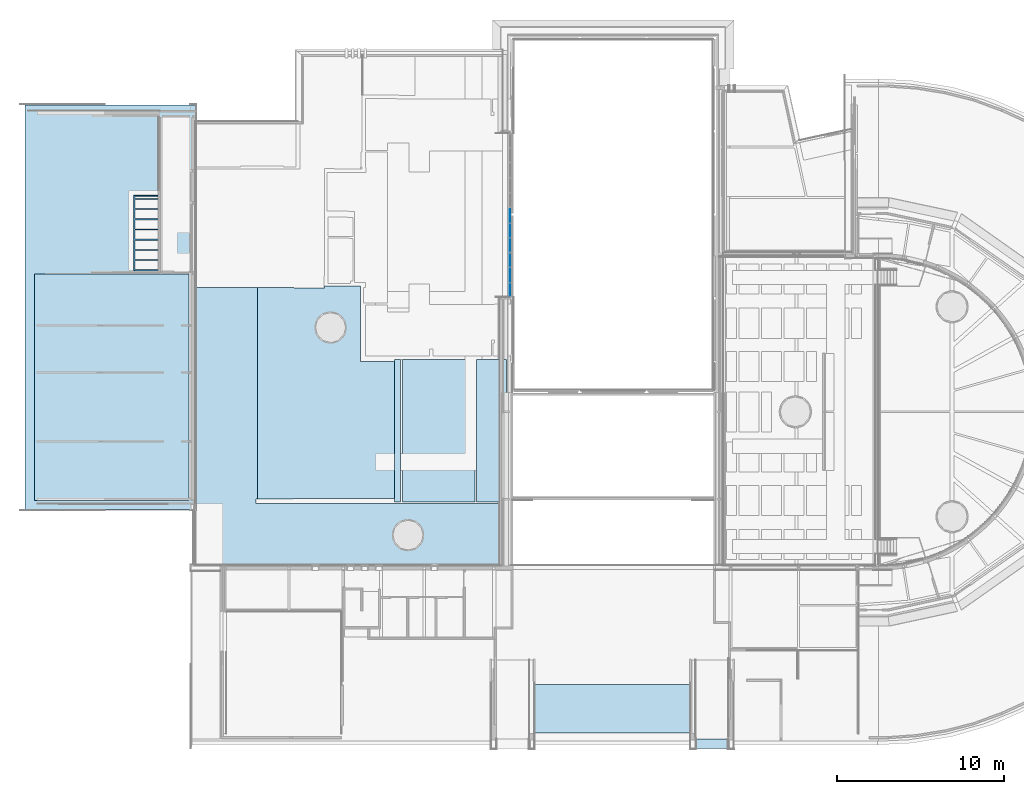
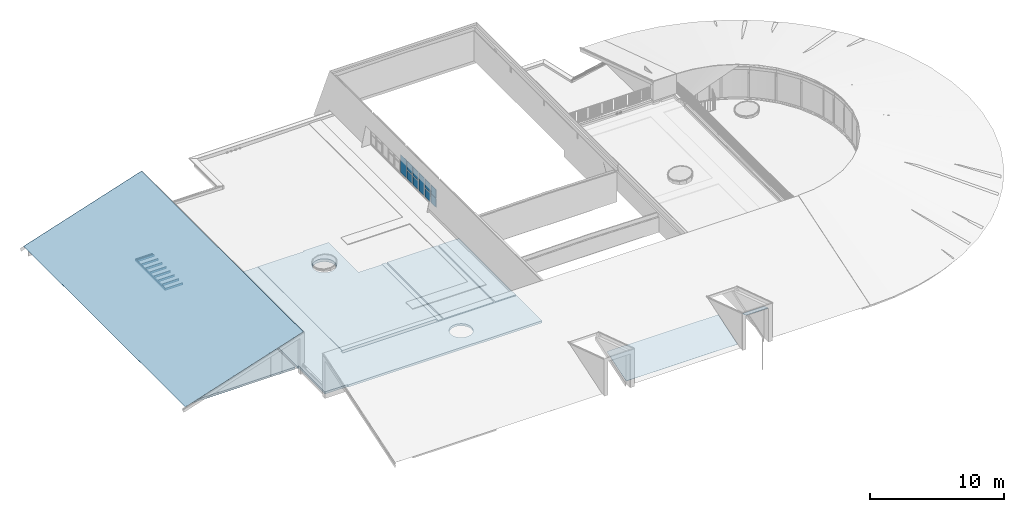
# One storey, part 12 of 66: 10 plates, 10 slabs, 2 openings, 4 elements without a shape of their own.
"""IFC2X3 building model written with IfcOpenShell, lengths in millimetres."""

from ifc_helpers import new_model, entity, si_unit, converted_unit, derived_unit, direction, frame, frame_2d, origin, origin_2d_with_axis, place, context, subcontext, project, spatial, polyline, rectangle, circle, outline, extrude, clip, halfspace, source, transform, mapped, material, layer, layer_set, layer_usage, type_object, type_shapes, element, aggregate, save


model = new_model("IFC2X3")

# Units and contexts
model_context = context("Model", 3, precision=0.01, world=origin(), true_north=direction((6.12303176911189e-17, 1.0)))
body_context = subcontext(model_context, "Body", "Model", "MODEL_VIEW")
ifc_project = project(units=[si_unit("LENGTHUNIT", "METRE", prefix="MILLI"), si_unit("AREAUNIT", "SQUARE_METRE"), si_unit("VOLUMEUNIT", "CUBIC_METRE"), converted_unit("PLANEANGLEUNIT", "DEGREE", entity("IfcRatioMeasure", 0.0174532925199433), si_unit("PLANEANGLEUNIT", "RADIAN"), dimensions=[0, 0, 0, 0, 0, 0, 0]), si_unit("MASSUNIT", "GRAM", prefix="KILO"), derived_unit("MASSDENSITYUNIT", [(si_unit("MASSUNIT", "GRAM", prefix="KILO"), 1), (si_unit("LENGTHUNIT", "METRE"), -3)]), derived_unit("MOMENTOFINERTIAUNIT", [(si_unit("LENGTHUNIT", "METRE"), 4)]), si_unit("TIMEUNIT", "SECOND"), si_unit("FREQUENCYUNIT", "HERTZ"), si_unit("THERMODYNAMICTEMPERATUREUNIT", "DEGREE_CELSIUS"), derived_unit("THERMALTRANSMITTANCEUNIT", [(si_unit("MASSUNIT", "GRAM", prefix="KILO"), 1), (si_unit("THERMODYNAMICTEMPERATUREUNIT", "KELVIN"), -1), (si_unit("TIMEUNIT", "SECOND"), -3)]), derived_unit("VOLUMETRICFLOWRATEUNIT", [(si_unit("LENGTHUNIT", "METRE"), 3), (si_unit("TIMEUNIT", "SECOND"), -1)]), si_unit("ELECTRICCURRENTUNIT", "AMPERE"), si_unit("ELECTRICVOLTAGEUNIT", "VOLT"), si_unit("POWERUNIT", "WATT"), si_unit("FORCEUNIT", "NEWTON", prefix="KILO"), si_unit("ILLUMINANCEUNIT", "LUX"), si_unit("LUMINOUSFLUXUNIT", "LUMEN"), si_unit("LUMINOUSINTENSITYUNIT", "CANDELA"), derived_unit("USERDEFINED", [(si_unit("MASSUNIT", "GRAM", prefix="KILO"), -1), (si_unit("LENGTHUNIT", "METRE"), -2), (si_unit("TIMEUNIT", "SECOND"), 3), (si_unit("LUMINOUSFLUXUNIT", "LUMEN"), 1)]), derived_unit("LINEARVELOCITYUNIT", [(si_unit("LENGTHUNIT", "METRE"), 1), (si_unit("TIMEUNIT", "SECOND"), -1)]), si_unit("PRESSUREUNIT", "PASCAL"), derived_unit("USERDEFINED", [(si_unit("LENGTHUNIT", "METRE"), -2), (si_unit("MASSUNIT", "GRAM", prefix="KILO"), 1), (si_unit("TIMEUNIT", "SECOND"), -2)]), derived_unit("LINEARFORCEUNIT", [(si_unit("MASSUNIT", "GRAM", prefix="KILO"), 1), (si_unit("LENGTHUNIT", "METRE"), 1), (si_unit("TIMEUNIT", "SECOND"), -2), (si_unit("LENGTHUNIT", "METRE"), -1)]), derived_unit("PLANARFORCEUNIT", [(si_unit("MASSUNIT", "GRAM", prefix="KILO"), 1), (si_unit("LENGTHUNIT", "METRE"), 1), (si_unit("TIMEUNIT", "SECOND"), -2), (si_unit("LENGTHUNIT", "METRE"), -2)])], contexts=[model_context])

# Site, building, storey
site_placement = place(None, origin())
site = spatial("IfcSite", under=ifc_project, at=site_placement, Name="Default", CompositionType="ELEMENT")
building_placement = place(site_placement, origin())
building = spatial("IfcBuilding", under=site, at=building_placement, Name="-", CompositionType="ELEMENT")
storey_placement = place(building_placement, frame((0.0, 0.0, 3070.0)))
storey = spatial("IfcBuildingStorey", under=building, at=storey_placement, Name="01 eerste verdieping", CompositionType="ELEMENT", Elevation=3070.00000000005)

# Curtain wall, plates
curtain_wall_type = type_object("IfcCurtainWallType", Name="Curtain Wall:NLRS_31_WIN_UN_houten kozijn vrij indeelbaar_gen_aly", PredefinedType="NOTDEFINED")
curtain_wall_placement = place(storey_placement, frame((0.0, 0.0, -3070.0)))
curtain_wall = element("IfcCurtainWall", 1, at=curtain_wall_placement, inside=storey, type_object=curtain_wall_type, Name="Curtain Wall:NLRS_31_WIN_UN_houten kozijn vrij indeelbaar_gen_aly", ObjectType="Curtain Wall:NLRS_31_WIN_UN_houten kozijn vrij indeelbaar_gen_aly")
ifc_material_1 = material(Name="NLRS_o5_glas")
plate_type_1 = type_object("IfcPlateType", Name="System Panel:31_Geïsoleerd glas 25mm", PredefinedType="CURTAIN_PANEL", material=ifc_material_1)
shared_shape_1 = source(origin(), body_context, "Body", "SweptSolid", [
    extrude(rectangle(XDim=25.0, YDim=768.192821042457, at=origin_2d_with_axis()), frame((0.0, 0.0, 0.0), z_axis=(0.0, 0.0, 1.0), x_axis=(0.0, 1.0, 0.0)), (0.0, 0.0, 1.0), 789.472353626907),
])
type_shapes(plate_type_1, [shared_shape_1])
plate_1_placement = place(curtain_wall_placement, frame((28618.0, 26925.0732932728, 3482.35900394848), z_axis=(0.0, 0.0, 1.0), x_axis=(0.0, 1.0, 0.0)))
plate_1 = element("IfcPlate", 2, at=plate_1_placement, type_object=plate_type_1, material=ifc_material_1, Name="System Panel:31_Geïsoleerd glas 25mm", ObjectType="System Panel:31_Geïsoleerd glas 25mm", context=body_context, shape_type="MappedRepresentation", body=[
    mapped(shared_shape_1, transform((0.0, 0.0, 0.0), scale=1.0)),
])
plate_type_2 = type_object("IfcPlateType", Name="System Panel:31_Geïsoleerd glas 25mm", PredefinedType="CURTAIN_PANEL", material=ifc_material_1)
shared_shape_2 = source(origin(), body_context, "Body", "SweptSolid", [
    extrude(rectangle(XDim=25.0, YDim=847.692821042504, at=origin_2d_with_axis()), frame((0.0, 0.0, 0.0), z_axis=(0.0, 0.0, 1.0), x_axis=(0.0, 1.0, 0.0)), (0.0, 0.0, 1.0), 789.472353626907),
])
type_shapes(plate_type_2, [shared_shape_2])
plate_2_placement = place(curtain_wall_placement, frame((28618.0, 27800.0161143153, 3482.35900394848), z_axis=(0.0, 0.0, 1.0), x_axis=(0.0, 1.0, 0.0)))
plate_2 = element("IfcPlate", 3, at=plate_2_placement, type_object=plate_type_2, material=ifc_material_1, Name="System Panel:31_Geïsoleerd glas 25mm", ObjectType="System Panel:31_Geïsoleerd glas 25mm", context=body_context, shape_type="MappedRepresentation", body=[
    mapped(shared_shape_2, transform((0.0, 0.0, 0.0), scale=1.0)),
])
plate_type_3 = type_object("IfcPlateType", Name="System Panel:31_Geïsoleerd glas 25mm", PredefinedType="CURTAIN_PANEL", material=ifc_material_1)
shared_shape_3 = source(origin(), body_context, "Body", "SweptSolid", [
    extrude(rectangle(XDim=1625.94470725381, YDim=824.692821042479, at=frame_2d((-3.33333333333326, 0.0), x_axis=(1.0, 0.0))), frame((0.0, -12.5000000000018, 816.305686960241), z_axis=(0.0, 1.0, 0.0), x_axis=(0.0, 0.0, 1.0)), (0.0, 0.0, 1.0), 25.0),
])
type_shapes(plate_type_3, [shared_shape_3])
plate_3_placement = place(curtain_wall_placement, frame((28618.0, 28703.2089353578, 3482.35900394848), z_axis=(0.0, 0.0, 1.0), x_axis=(0.0, 1.0, 0.0)))
plate_3 = element("IfcPlate", 4, at=plate_3_placement, type_object=plate_type_3, material=ifc_material_1, Name="System Panel:31_Geïsoleerd glas 25mm", ObjectType="System Panel:31_Geïsoleerd glas 25mm", context=body_context, shape_type="MappedRepresentation", body=[
    mapped(shared_shape_3, transform((0.0, 0.0, 0.0), scale=1.0)),
])
plate_type_4 = type_object("IfcPlateType", Name="System Panel:31_Geïsoleerd glas 25mm", PredefinedType="CURTAIN_PANEL", material=ifc_material_1)
shared_shape_4 = source(origin(), body_context, "Body", "SweptSolid", [
    extrude(rectangle(XDim=25.0, YDim=812.999999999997, at=origin_2d_with_axis()), frame((0.0, 0.0, 0.0), z_axis=(0.0, 0.0, 1.0), x_axis=(0.0, 1.0, 0.0)), (0.0, 0.0, 1.0), 789.472353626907),
])
type_shapes(plate_type_4, [shared_shape_4])
plate_4_placement = place(curtain_wall_placement, frame((28618.0, 29589.055345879, 3482.35900394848), z_axis=(0.0, 0.0, 1.0), x_axis=(0.0, 1.0, 0.0)))
plate_4 = element("IfcPlate", 5, at=plate_4_placement, type_object=plate_type_4, material=ifc_material_1, Name="System Panel:31_Geïsoleerd glas 25mm", ObjectType="System Panel:31_Geïsoleerd glas 25mm", context=body_context, shape_type="MappedRepresentation", body=[
    mapped(shared_shape_4, transform((0.0, 0.0, 0.0), scale=1.0)),
])
plate_5_placement = place(curtain_wall_placement, frame((28618.0, 30469.055345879, 3482.35900394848), z_axis=(0.0, 0.0, 1.0), x_axis=(0.0, 1.0, 0.0)))
plate_5 = element("IfcPlate", 6, at=plate_5_placement, type_object=plate_type_4, material=ifc_material_1, Name="System Panel:31_Geïsoleerd glas 25mm", ObjectType="System Panel:31_Geïsoleerd glas 25mm", context=body_context, shape_type="MappedRepresentation", body=[
    mapped(shared_shape_4, transform((0.0, 0.0, 0.0), scale=1.0)),
])
plate_type_5 = type_object("IfcPlateType", Name="System Panel:31_Geïsoleerd glas 25mm", PredefinedType="CURTAIN_PANEL", material=ifc_material_1)
shared_shape_5 = source(origin(), body_context, "Body", "SweptSolid", [
    extrude(rectangle(XDim=1625.94470725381, YDim=872.999999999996, at=frame_2d((-3.33333333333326, 0.0), x_axis=(1.0, 0.0))), frame((0.0, -12.5000000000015, 816.305686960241), z_axis=(0.0, 1.0, 0.0), x_axis=(0.0, 0.0, 1.0)), (0.0, 0.0, 1.0), 25.0),
])
type_shapes(plate_type_5, [shared_shape_5])
plate_6_placement = place(curtain_wall_placement, frame((28618.0, 31379.055345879, 3482.35900394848), z_axis=(0.0, 0.0, 1.0), x_axis=(0.0, 1.0, 0.0)))
plate_6 = element("IfcPlate", 7, at=plate_6_placement, type_object=plate_type_5, material=ifc_material_1, Name="System Panel:31_Geïsoleerd glas 25mm", ObjectType="System Panel:31_Geïsoleerd glas 25mm", context=body_context, shape_type="MappedRepresentation", body=[
    mapped(shared_shape_5, transform((0.0, 0.0, 0.0), scale=1.0)),
])
plate_type_6 = type_object("IfcPlateType", Name="System Panel:31_Geïsoleerd glas 25mm", PredefinedType="CURTAIN_PANEL", material=ifc_material_1)
shared_shape_6 = source(origin(), body_context, "Body", "SweptSolid", [
    extrude(rectangle(XDim=25.0, YDim=768.192821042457, at=origin_2d_with_axis()), frame((0.0, 0.0, 0.0), z_axis=(0.0, 0.0, 1.0), x_axis=(0.0, 1.0, 0.0)), (0.0, 0.0, 1.0), 769.472353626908),
])
type_shapes(plate_type_6, [shared_shape_6])
plate_7_placement = place(curtain_wall_placement, frame((28618.0, 26925.0732932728, 4338.83135757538), z_axis=(0.0, 0.0, 1.0), x_axis=(0.0, 1.0, 0.0)))
plate_7 = element("IfcPlate", 8, at=plate_7_placement, type_object=plate_type_6, material=ifc_material_1, Name="System Panel:31_Geïsoleerd glas 25mm", ObjectType="System Panel:31_Geïsoleerd glas 25mm", context=body_context, shape_type="MappedRepresentation", body=[
    mapped(shared_shape_6, transform((0.0, 0.0, 0.0), scale=1.0)),
])
plate_type_7 = type_object("IfcPlateType", Name="System Panel:31_Geïsoleerd glas 25mm", PredefinedType="CURTAIN_PANEL", material=ifc_material_1)
shared_shape_7 = source(origin(), body_context, "Body", "SweptSolid", [
    extrude(rectangle(XDim=25.0, YDim=847.692821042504, at=origin_2d_with_axis()), frame((0.0, 0.0, 0.0), z_axis=(0.0, 0.0, 1.0), x_axis=(0.0, 1.0, 0.0)), (0.0, 0.0, 1.0), 769.472353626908),
])
type_shapes(plate_type_7, [shared_shape_7])
plate_8_placement = place(curtain_wall_placement, frame((28618.0, 27800.0161143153, 4338.83135757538), z_axis=(0.0, 0.0, 1.0), x_axis=(0.0, 1.0, 0.0)))
plate_8 = element("IfcPlate", 9, at=plate_8_placement, type_object=plate_type_7, material=ifc_material_1, Name="System Panel:31_Geïsoleerd glas 25mm", ObjectType="System Panel:31_Geïsoleerd glas 25mm", context=body_context, shape_type="MappedRepresentation", body=[
    mapped(shared_shape_7, transform((0.0, 0.0, 0.0), scale=1.0)),
])
plate_type_8 = type_object("IfcPlateType", Name="System Panel:31_Geïsoleerd glas 25mm", PredefinedType="CURTAIN_PANEL", material=ifc_material_1)
shared_shape_8 = source(origin(), body_context, "Body", "SweptSolid", [
    extrude(rectangle(XDim=25.0, YDim=812.999999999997, at=origin_2d_with_axis()), frame((0.0, 0.0, 0.0), z_axis=(0.0, 0.0, 1.0), x_axis=(0.0, 1.0, 0.0)), (0.0, 0.0, 1.0), 769.472353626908),
])
type_shapes(plate_type_8, [shared_shape_8])
plate_9_placement = place(curtain_wall_placement, frame((28618.0, 29589.055345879, 4338.83135757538), z_axis=(0.0, 0.0, 1.0), x_axis=(0.0, 1.0, 0.0)))
plate_9 = element("IfcPlate", 10, at=plate_9_placement, type_object=plate_type_8, material=ifc_material_1, Name="System Panel:31_Geïsoleerd glas 25mm", ObjectType="System Panel:31_Geïsoleerd glas 25mm", context=body_context, shape_type="MappedRepresentation", body=[
    mapped(shared_shape_8, transform((0.0, 0.0, 0.0), scale=1.0)),
])
plate_10_placement = place(curtain_wall_placement, frame((28618.0, 30469.055345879, 4338.83135757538), z_axis=(0.0, 0.0, 1.0), x_axis=(0.0, 1.0, 0.0)))
plate_10 = element("IfcPlate", 11, at=plate_10_placement, type_object=plate_type_8, material=ifc_material_1, Name="System Panel:31_Geïsoleerd glas 25mm", ObjectType="System Panel:31_Geïsoleerd glas 25mm", context=body_context, shape_type="MappedRepresentation", body=[
    mapped(shared_shape_8, transform((0.0, 0.0, 0.0), scale=1.0)),
])
aggregate(curtain_wall, [plate_1, plate_2, plate_3, plate_4, plate_5, plate_6, plate_7, plate_8, plate_9, plate_10])

# Slab, opening
ifc_material_2 = material(Name="NLRS_i4_hout_multiplex")
ifc_layer_1 = layer(ifc_material_2, 18.0)
ifc_material_3 = material(Name="NLRS_i2_hout naaldhout vuren_gen")
ifc_layer_2 = layer(ifc_material_3, 245.0)
ifc_layer_set_1 = layer_set([ifc_layer_1, ifc_layer_2], Name="Floor:NLRS_23_FL_Houten balk laag 245mm met multiplex")
ifc_layer_usage_1 = layer_usage(ifc_layer_set_1, "AXIS3", "POSITIVE", 0.0)
slab_type_1 = type_object("IfcSlabType", Name="Floor:NLRS_23_FL_Houten balk laag 245mm met multiplex", PredefinedType="FLOOR", material=ifc_layer_set_1)
slab_1_placement = place(storey_placement, frame((13500.0, 14407.2889589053, -263.0)))
slab_1 = element("IfcSlab", 12, at=slab_1_placement, inside=storey, type_object=slab_type_1, material=ifc_layer_usage_1, Name="Floor:NLRS_23_FL_Houten balk laag 245mm met multiplex", ObjectType="Floor:NLRS_23_FL_Houten balk laag 245mm met multiplex", PredefinedType="FLOOR", context=body_context, shape_type="SweptSolid", body=[
    extrude(outline(polyline([(-4103.51571935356, -6338.99011685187), (4085.48428064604, -6371.6950127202), (4085.48428064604, 6266.89910239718), (90.99765850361, 6254.70911095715), (90.99765850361, 6355.0151486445), (-2088.87073332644, 6355.0151486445), (-2088.87073332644, 1856.79142854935), (-4103.51571935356, 1856.79142854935), (-4103.51571935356, -6338.99011685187)])), frame((4085.48428064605, 6371.6950127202, 263.0), z_axis=(0.0, 0.0, -1.0), x_axis=(-1.0, 0.0, 0.0)), (0.0, 0.0, 1.0), 263.0),
])
opening_1_placement = place(slab_1_placement, frame((4374.35501397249, 10252.6126019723, 263.0)))
element("IfcOpeningElement", 13, at=opening_1_placement, cuts=slab_1, Name="Floor:NLRS_23_FL_Houten balk laag 245mm met multiplex:2", ObjectType="Opening", context=body_context, shape_type="SweptSolid", body=[
    extrude(circle(Radius=900.0, at=origin_2d_with_axis()), frame((0.0, 0.0, 0.0), z_axis=(0.0, 0.0, -1.0), x_axis=(1.0, 0.0, 0.0)), (0.0, 0.0, 1.0), 263.0),
])

# Slab
ifc_layer_3 = layer(ifc_material_3, 171.0)
ifc_layer_set_2 = layer_set([ifc_layer_3], Name="Floor:NLRS_23_FL_Houten balk laag 171mm")
ifc_layer_usage_2 = layer_usage(ifc_layer_set_2, "AXIS3", "POSITIVE", 0.0)
slab_type_2 = type_object("IfcSlabType", Name="Floor:NLRS_23_FL_Houten balk laag 171mm", PredefinedType="FLOOR", material=ifc_layer_set_2)
slab_2_placement = place(storey_placement, origin())
element("IfcSlab", 14, at=slab_2_placement, inside=storey, type_object=slab_type_2, material=ifc_layer_usage_2, Name="Floor:NLRS_23_FL_Houten balk laag 171mm", ObjectType="Floor:NLRS_23_FL_Houten balk laag 171mm", PredefinedType="FLOOR", context=body_context, shape_type="Clipping", body=[
    clip(extrude(rectangle(XDim=13534.7330411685, YDim=9231.80418241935, at=frame_2d((-2.27373675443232e-12, 0.0), x_axis=(1.0, 0.0))), frame((4784.09790879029, 21092.1200561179, -18.0), z_axis=(0.0, 0.0, -1.0), x_axis=(0.0, 1.0, 0.0)), (0.0, 0.0, 1.0), 171.000000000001), halfspace(frame((-192.451274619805, 37985.602151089, -158.621079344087), z_axis=(-0.309016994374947, 0.0, 0.951056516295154), x_axis=(0.0, -1.0, 0.0)), False)),
])

# Covering, slab
covering_placement = place(storey_placement, frame((-402.503785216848, 13768.8169709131, 98.0305500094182)))
covering = element("IfcCovering", 15, at=covering_placement, inside=storey, Name="Basic Roof:NLRS_47_Felsdak zink", ObjectType="Basic Roof:NLRS_47_Felsdak zink", PredefinedType="NOTDEFINED")
slab_type_3 = type_object("IfcSlabType", Name="Basic Roof:NLRS_47_Felsdak zink", PredefinedType="ROOF")
slab_3_placement = place(covering_placement, origin())
slab_3 = element("IfcSlab", 16, at=slab_3_placement, type_object=slab_type_3, Name="Basic Roof:NLRS_47_Felsdak zink", ObjectType="Basic Roof:NLRS_47_Felsdak zink", PredefinedType="NOTDEFINED", context=body_context, shape_type="SweptSolid", body=[
    extrude(rectangle(XDim=24199.1696057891, YDim=10705.073367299, at=frame_2d((4.54747350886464e-13, 0.0), x_axis=(0.0, -1.0))), frame((5090.56489169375, 12099.5848028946, 1654.02479826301), z_axis=(-0.309016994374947, 0.0, 0.951056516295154), x_axis=(0.951056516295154, 0.0, 0.309016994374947)), (0.309016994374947, 0.0, 0.951056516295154), 1.05146222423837),
])
aggregate(covering, [slab_3])

# Slab, opening
ifc_layer_4 = layer(ifc_material_3, 196.0)
ifc_layer_set_3 = layer_set([ifc_layer_4], Name="Floor:NLRS_23_FL_Houten balk laag 196mm")
ifc_layer_usage_3 = layer_usage(ifc_layer_set_3, "AXIS3", "POSITIVE", 0.0)
slab_type_4 = type_object("IfcSlabType", Name="Floor:NLRS_23_FL_Houten balk laag 196mm", PredefinedType="FLOOR", material=ifc_layer_set_3)
slab_4_placement = place(storey_placement, frame((9574.89999999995, 10323.6240954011, -214.0)))
slab_4 = element("IfcSlab", 17, at=slab_4_placement, inside=storey, type_object=slab_type_4, material=ifc_layer_usage_3, Name="Floor:NLRS_23_FL_Houten balk laag 196mm", ObjectType="Floor:NLRS_23_FL_Houten balk laag 196mm", PredefinedType="FLOOR", context=body_context, shape_type="SweptSolid", body=[
    extrude(outline(polyline([(7352.28698835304, -8367.1186113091), (7352.28698835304, -8288.61861130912), (9297.29741716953, -8288.61861130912), (9297.29741716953, -4370.6186113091), (9410.39741716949, -4370.6186113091), (9410.39741716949, 8367.1186113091), (5485.29741716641, 8355.14036731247), (5485.29741716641, -4283.45374780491), (5585.29741716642, -4283.45374780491), (5585.29741716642, -4557.11861130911), (-9410.39741716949, -4557.11861130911), (-9410.39741716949, -8367.1186113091), (7352.28698835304, -8367.1186113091)])), frame((9410.39741716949, 8367.1186113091, 196.0), z_axis=(0.0, 0.0, -1.0), x_axis=(-1.0, 0.0, 0.0)), (0.0, 0.0, 1.0), 196.0),
])
opening_2_placement = place(slab_4_placement, frame((12942.0690457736, 1916.76833781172, 196.0)))
element("IfcOpeningElement", 18, at=opening_2_placement, cuts=slab_4, Name="Floor:NLRS_23_FL_Houten balk laag 196mm:2", ObjectType="Opening", context=body_context, shape_type="SweptSolid", body=[
    extrude(circle(Radius=900.0, at=origin_2d_with_axis()), frame((0.0, 0.0, 0.0), z_axis=(0.0, 0.0, -1.0), x_axis=(1.0, 0.0, 0.0)), (0.0, 0.0, 1.0), 196.0),
])

# Slabs
ifc_layer_usage_4 = layer_usage(ifc_layer_set_3, "AXIS3", "POSITIVE", 0.0)
slab_type_5 = type_object("IfcSlabType", Name="Floor:NLRS_23_FL_Houten balk laag 196mm", PredefinedType="FLOOR", material=ifc_layer_set_3)
slab_5_placement = place(storey_placement, origin())
element("IfcSlab", 19, at=slab_5_placement, inside=storey, type_object=slab_type_5, material=ifc_layer_usage_4, Name="Floor:NLRS_23_FL_Houten balk laag 196mm", ObjectType="Floor:NLRS_23_FL_Houten balk laag 196mm", PredefinedType="FLOOR", context=body_context, shape_type="SweptSolid", body=[
    extrude(rectangle(XDim=8502.15130477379, YDim=4337.14588877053, at=frame_2d((-1.36424205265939e-12, 0.0), x_axis=(1.0, 0.0))), frame((24338.5729443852, 18484.6997477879, -18.0), z_axis=(0.0, 0.0, -1.0), x_axis=(0.0, 1.0, 0.0)), (0.0, 0.0, 1.0), 196.0),
])
ifc_layer_usage_5 = layer_usage(ifc_layer_set_2, "AXIS3", "POSITIVE", 0.0)
slab_type_6 = type_object("IfcSlabType", Name="Floor:NLRS_23_FL_Houten balk laag 171mm", PredefinedType="FLOOR", material=ifc_layer_set_2)
slab_6_placement = place(storey_placement, origin())
element("IfcSlab", 20, at=slab_6_placement, inside=storey, type_object=slab_type_6, material=ifc_layer_usage_5, Name="Floor:NLRS_23_FL_Houten balk laag 171mm", ObjectType="Floor:NLRS_23_FL_Houten balk laag 171mm", PredefinedType="FLOOR", context=body_context, shape_type="SweptSolid", body=[
    extrude(rectangle(XDim=8502.15130477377, YDim=380.999999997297, at=frame_2d((9.09494701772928e-13, 4.33431068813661e-12), x_axis=(1.0, 0.0))), frame((21879.5000000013, 18484.6997477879, -18.0), z_axis=(0.0, 0.0, -1.0), x_axis=(0.0, 1.0, 0.0)), (0.0, 0.0, 1.0), 171.0),
])
ifc_layer_usage_6 = layer_usage(ifc_layer_set_2, "AXIS3", "POSITIVE", 0.0)
slab_type_7 = type_object("IfcSlabType", Name="Floor:NLRS_23_FL_Houten balk laag 171mm", PredefinedType="FLOOR", material=ifc_layer_set_2)
slab_7_placement = place(storey_placement, origin())
element("IfcSlab", 21, at=slab_7_placement, inside=storey, type_object=slab_type_7, material=ifc_layer_usage_6, Name="Floor:NLRS_23_FL_Houten balk laag 171mm", ObjectType="Floor:NLRS_23_FL_Houten balk laag 171mm", PredefinedType="FLOOR", context=body_context, shape_type="SweptSolid", body=[
    extrude(rectangle(XDim=8502.15130477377, YDim=1783.54894556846, at=frame_2d((9.09494701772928e-13, 8.64019966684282e-12), x_axis=(1.0, 0.0))), frame((27498.9203615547, 18484.6997477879, -18.0), z_axis=(0.0, 0.0, -1.0), x_axis=(0.0, 1.0, 0.0)), (0.0, 0.0, 1.0), 171.0),
])

# Roof, slab
roof_1_placement = place(storey_placement, frame((29928.8156197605, 407.2516688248, -56.319957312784)))
roof_1 = element("IfcRoof", 22, at=roof_1_placement, inside=storey, Name="Basic Roof:NLRS_27_Plafond bekleding mf zaal", ObjectType="Basic Roof:NLRS_27_Plafond bekleding mf zaal", ShapeType="NOTDEFINED")
slab_type_8 = type_object("IfcSlabType", Name="Basic Roof:NLRS_27_Plafond bekleding mf zaal", PredefinedType="ROOF")
slab_8_placement = place(roof_1_placement, origin())
slab_8 = element("IfcSlab", 23, at=slab_8_placement, type_object=slab_type_8, Name="Basic Roof:NLRS_27_Plafond bekleding mf zaal", ObjectType="Basic Roof:NLRS_27_Plafond bekleding mf zaal", PredefinedType="NOTDEFINED", context=body_context, shape_type="SweptSolid", body=[
    extrude(rectangle(XDim=9623.56919499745, YDim=3045.0, at=frame_2d((0.0, -1.13686837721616e-13), x_axis=(-1.0, 0.0))), frame((4811.78459749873, 1447.98354605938, 470.47837393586), z_axis=(0.0, -0.309016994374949, 0.951056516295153), x_axis=(1.0, 0.0, 0.0)), (0.0, 0.309016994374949, 0.951056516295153), 12.6175466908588),
])
aggregate(roof_1, [slab_8])

ifc_material_4 = material(Name="AL Houten gevelbekleding liggend")
roof_2_placement = place(storey_placement, origin())
roof_2 = element("IfcRoof", 24, at=roof_2_placement, inside=storey, material=ifc_material_4, Name="Plafond erkers mf zaal:Plafond erkers mf zaal", ObjectType="Plafond erkers mf zaal:Plafond erkers mf zaal", ShapeType="NOTDEFINED")
slab_type_9 = type_object("IfcSlabType", Name="Plafond erkers mf zaal:Plafond erkers mf zaal", PredefinedType="ROOF")
slab_9_placement = place(storey_placement, origin())
slab_9 = element("IfcSlab", 25, at=slab_9_placement, type_object=slab_type_9, material=ifc_material_4, Name="Plafond erkers mf zaal:Plafond erkers mf zaal:1", ObjectType="Plafond erkers mf zaal:Plafond erkers mf zaal", PredefinedType="ROOF", context=body_context, shape_type="SweptSolid", body=[
    extrude(outline(polyline([(-104.714873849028, -289.918563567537), (-83.6856293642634, -289.918563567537), (104.714873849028, 289.918563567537), (83.6856293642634, 289.918563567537), (-104.714873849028, -289.918563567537)])), frame((39747.2859170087, -239.492922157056, 2994.66011887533), z_axis=(1.0, 0.0, 0.0), x_axis=(0.0, 0.0, -1.0)), (0.0, 0.0, 1.0), 1899.99999999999),
])
aggregate(roof_2, [slab_9])

# Slab
ifc_material_5 = material(Name="NLRS_i2_hout_naaldhout (vuren)")
slab_type_10 = type_object("IfcSlabType", Name="Houten balklaag soosruimte:Houten balklaag soosruimte", PredefinedType="FLOOR", material=ifc_material_5)
slab_10_placement = place(storey_placement, origin())
element("IfcSlab", 26, at=slab_10_placement, inside=storey, type_object=slab_type_10, Name="Houten balklaag soosruimte:Houten balklaag soosruimte", ObjectType="Houten balklaag soosruimte:Houten balklaag soosruimte", PredefinedType="FLOOR", context=body_context, shape_type="SweptSolid", body=[
    extrude(rectangle(XDim=1458.93641887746, YDim=71.0000000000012, at=frame_2d((0.0, -2.16360263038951e-12), x_axis=(1.0, 0.0))), frame((6890.56205999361, 32353.9865767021, -214.0)), (0.0, 0.0, 1.0), 195.999999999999),
    extrude(rectangle(XDim=1458.93641887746, YDim=71.0000000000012, at=frame_2d((1.08002495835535e-12, -2.16360263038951e-12), x_axis=(1.0, 0.0))), frame((6890.56205999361, 31743.9865767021, -214.0)), (0.0, 0.0, 1.0), 195.999999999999),
    extrude(rectangle(XDim=1458.93641887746, YDim=71.0000000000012, at=frame_2d((5.11590769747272e-13, -2.16360263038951e-12), x_axis=(1.0, 0.0))), frame((6890.56205999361, 31133.9865767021, -214.0)), (0.0, 0.0, 1.0), 195.999999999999),
    extrude(rectangle(XDim=1458.93641887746, YDim=71.0000000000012, at=frame_2d((0.0, -2.16360263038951e-12), x_axis=(1.0, 0.0))), frame((6890.5620599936, 30523.9865767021, -214.0)), (0.0, 0.0, 1.0), 195.999999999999),
    extrude(rectangle(XDim=1458.93641887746, YDim=71.0000000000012, at=frame_2d((5.11590769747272e-13, -2.16360263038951e-12), x_axis=(1.0, 0.0))), frame((6890.5620599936, 29913.9865767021, -214.0)), (0.0, 0.0, 1.0), 195.999999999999),
    extrude(rectangle(XDim=1458.93641887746, YDim=71.0000000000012, at=frame_2d((-1.08002495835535e-12, -2.16360263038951e-12), x_axis=(1.0, 0.0))), frame((6890.5620599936, 29303.9865767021, -214.0)), (0.0, 0.0, 1.0), 195.999999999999),
    extrude(rectangle(XDim=1458.93641887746, YDim=71.0000000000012, at=frame_2d((5.11590769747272e-13, -2.16360263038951e-12), x_axis=(1.0, 0.0))), frame((6890.56205999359, 28693.9865767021, -214.0)), (0.0, 0.0, 1.0), 195.999999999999),
    extrude(rectangle(XDim=1458.93641887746, YDim=71.0000000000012, at=frame_2d((0.0, -2.16360263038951e-12), x_axis=(1.0, 0.0))), frame((6890.56205999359, 28083.9865767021, -214.0)), (0.0, 0.0, 1.0), 195.999999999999),
    extrude(rectangle(XDim=1458.90614944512, YDim=71.0000000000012, at=frame_2d((-5.6843418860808e-13, -2.16360263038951e-12), x_axis=(1.0, 0.0))), frame((6890.54692527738, 32530.4865767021, -214.0)), (0.0, 0.0, 1.0), 195.999999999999),
    extrude(rectangle(XDim=4509.50000000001, YDim=71.0000000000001, at=frame_2d((2.27373675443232e-12, 0.0), x_axis=(1.0, 0.0))), frame((6125.69808221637, 30311.2365767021, -214.0), z_axis=(0.0, 0.0, 1.0), x_axis=(0.0, -1.0, 0.0)), (0.0, 0.0, 1.0), 196.0),
])

save(model, "model.ifc")
